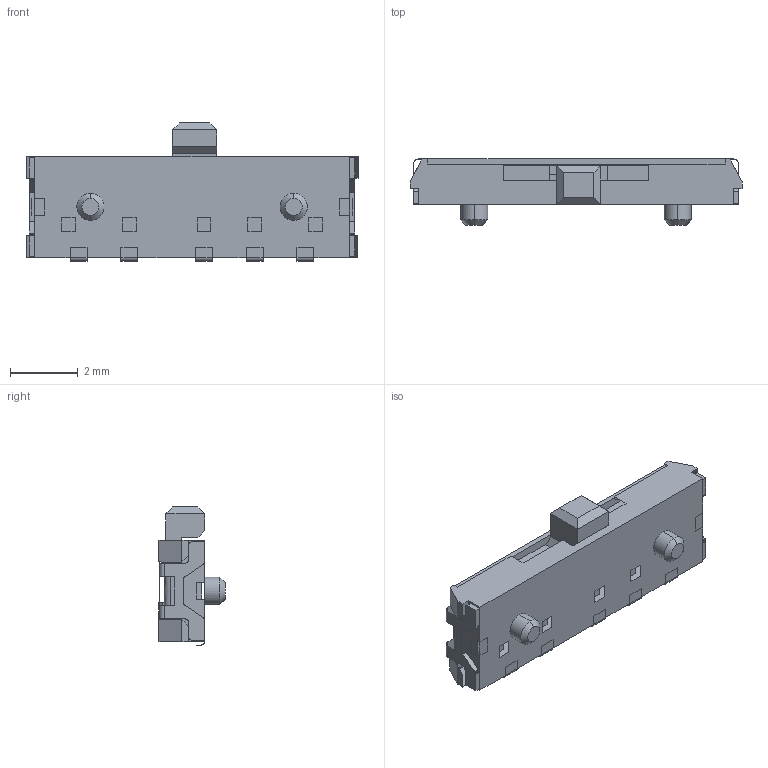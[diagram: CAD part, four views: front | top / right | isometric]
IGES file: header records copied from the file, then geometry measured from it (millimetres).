
Start section:  PTC IGES file: NSS602_sw0001.igs
Global section: file name: NSS602_sw0001.igs; native system: Pro/ENGINEER by Parametric Technology Corporation; preprocessor: 2008230; author: USER; organization: Unknown; date: 20090311.100246; units: millimetre
Bounding box: 9.8 x 1.95 x 4.08 mm (x, y, z)
Surface area: 115.8 mm2 (no closed solid volume)
Topology: 0 solids, 0 shells, 98 faces, 687 edges, 722 vertices
Faces by surface type: bspline 76, revolution 22
